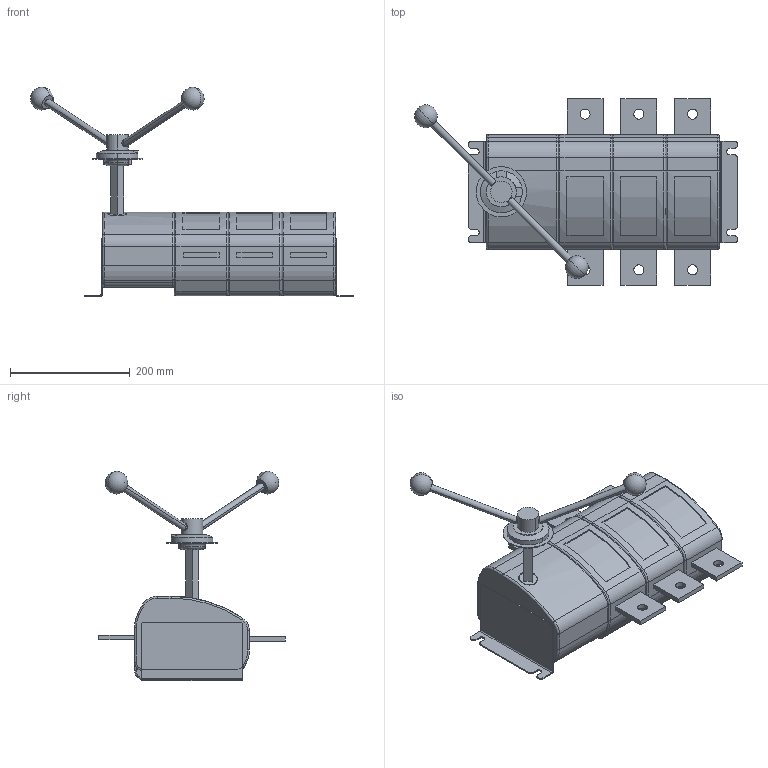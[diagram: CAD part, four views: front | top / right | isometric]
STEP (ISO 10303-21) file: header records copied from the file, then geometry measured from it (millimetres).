
FILE_DESCRIPTION (( 'STEP AP214' ), '1' );
FILE_NAME ('Âûêëþ÷àòåëü íàãðóçêè ÂÍÊ-41-31130-1000À-Ë-IP54-ÓÕË3-ÊÝÀÇ.STEP', '2023-04-19T13:40:00', ( '' ), ( '' ), 'SwSTEP 2.0', 'SolidWorks 2018', '' );
FILE_SCHEMA (( 'AUTOMOTIVE_DESIGN' ));
Length unit declared in the file: millimetre
Products named in the file (1): Âûêëþ÷àòåëü íàãðóçêè ÂÍÊ-41-31130-1000À-Ë-IP54-ÓÕË3-ÊÝÀÇ
Bounding box: 539.34 x 311.4 x 349.8 mm (x, y, z)
Volume: 9429842.1 mm3; surface area: 536722.6 mm2
Topology: 9 solids, 9 shells, 345 faces, 818 edges, 506 vertices
Faces by surface type: cylinder 142, plane 137, torus 60, sphere 4, cone 2
Entity records: 14140 total; most frequent: CARTESIAN_POINT 2058, DIRECTION 1845, ORIENTED_EDGE 1616, EDGE_CURVE 808, AXIS2_PLACEMENT_3D 711, VERTEX_POINT 500, VECTOR 423, LINE 423
